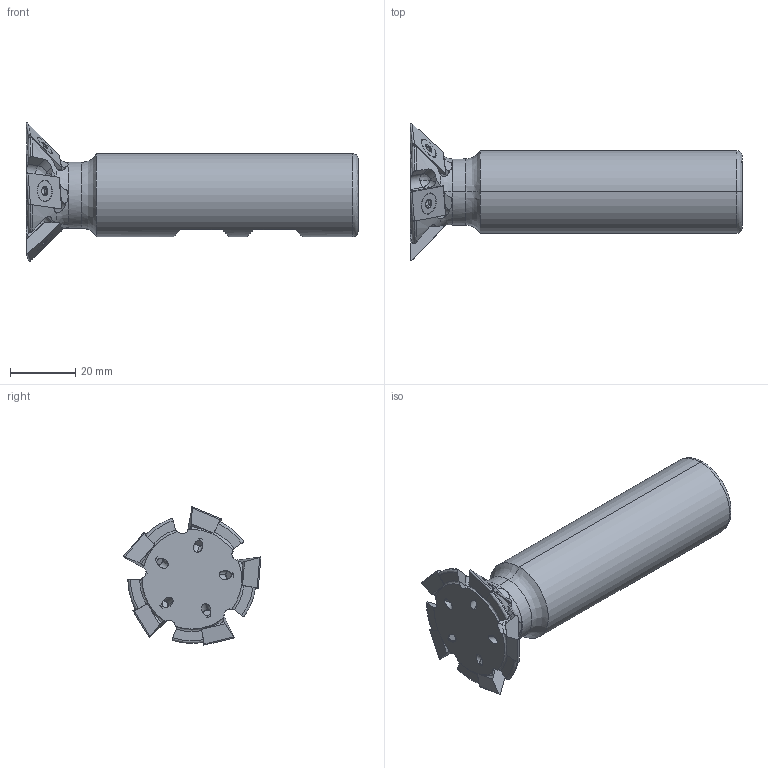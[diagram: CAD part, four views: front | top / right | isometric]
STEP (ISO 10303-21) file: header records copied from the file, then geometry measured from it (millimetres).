
FILE_DESCRIPTION (( 'STEP AP214' ), '1' );
FILE_NAME ('DC1750-45.STEP', '2015-10-05T16:34:09', ( '' ), ( '' ), 'SwSTEP 2.0', 'SolidWorks 2015', '' );
FILE_SCHEMA (( 'AUTOMOTIVE_DESIGN' ));
Length unit declared in the file: inch
Products named in the file (4): 90920A146_90920A146; INSERT; DC1750 REV A 5 FLUTE INSERT DOVETAIL CUTTER; DC1750-45
Assembly tree (11 placements, depth 2):
  DC1750-45
    DC1750 REV A 5 FLUTE INSERT DOVETAIL CUTTER
    INSERT  x5
    90920A146_90920A146  x5
Bounding box: 101.55 x 42.15 x 42.33 mm (x, y, z)
Volume: 50969.2 mm3; surface area: 13023.7 mm2
Topology: 11 solids, 11 shells, 466 faces, 1240 edges, 801 vertices
Faces by surface type: cylinder 200, plane 113, cone 90, bspline 63
Entity records: 12388 total; most frequent: CARTESIAN_POINT 4424, ORIENTED_EDGE 1200, DIRECTION 838, EDGE_CURVE 600, VERTEX_POINT 389, AXIS2_PLACEMENT_3D 311, EDGE_LOOP 231, UNCERTAINTY_MEASURE_WITH_UNIT 228
